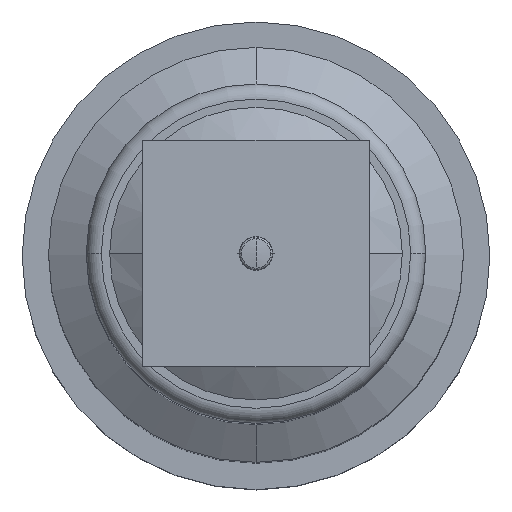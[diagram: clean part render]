
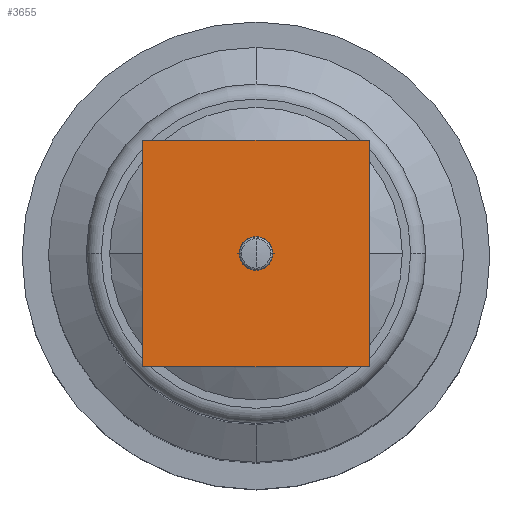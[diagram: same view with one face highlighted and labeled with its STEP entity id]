
A CAD part, top view. The second image highlights one B-rep face of the part: STEP entity #3655.
In plain terms, the highlighted planar face has unit normal (0, 0, 1).
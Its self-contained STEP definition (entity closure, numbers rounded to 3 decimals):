
#164 = ORIENTED_EDGE ( 'NONE', *, *, #7133, .T. ) ;
#713 = ORIENTED_EDGE ( 'NONE', *, *, #7649, .T. ) ;
#1603 = PLANE ( 'NONE',  #10544 ) ;
#1937 = ORIENTED_EDGE ( 'NONE', *, *, #4379, .T. ) ;
#2054 = CARTESIAN_POINT ( 'NONE',  ( -15., 15., 220. ) ) ;
#2060 = LINE ( 'NONE', #7481, #13785 ) ;
#2133 = DIRECTION ( 'NONE',  ( 0., 1., 0. ) ) ;
#2271 = VERTEX_POINT ( 'NONE', #3115 ) ;
#2326 = CARTESIAN_POINT ( 'NONE',  ( -15., 15., 220. ) ) ;
#2425 = CARTESIAN_POINT ( 'NONE',  ( -15., 15., 220. ) ) ;
#2739 = CARTESIAN_POINT ( 'NONE',  ( 0., 0., 220. ) ) ;
#3115 = CARTESIAN_POINT ( 'NONE',  ( -15., -15., 220. ) ) ;
#3655 = ADVANCED_FACE ( 'NONE', ( #11638 ), #1603, .T. ) ;
#3821 = EDGE_CURVE ( 'NONE', #9902, #2271, #8944, .T. ) ;
#4329 = ORIENTED_EDGE ( 'NONE', *, *, #3821, .T. ) ;
#4379 = EDGE_CURVE ( 'NONE', #7030, #9902, #14637, .T. ) ;
#5698 = CARTESIAN_POINT ( 'NONE',  ( 15., -15., 220. ) ) ;
#5796 = DIRECTION ( 'NONE',  ( 1., 0., 0. ) ) ;
#6236 = EDGE_LOOP ( 'NONE', ( #4329, #164, #713, #1937 ) ) ;
#6439 = VECTOR ( 'NONE', #12294, 1000. ) ;
#6822 = LINE ( 'NONE', #9169, #13444 ) ;
#7030 = VERTEX_POINT ( 'NONE', #9739 ) ;
#7133 = EDGE_CURVE ( 'NONE', #2271, #12289, #6822, .T. ) ;
#7240 = DIRECTION ( 'NONE',  ( 0., 0., 1. ) ) ;
#7481 = CARTESIAN_POINT ( 'NONE',  ( 15., 15., 220. ) ) ;
#7649 = EDGE_CURVE ( 'NONE', #12289, #7030, #2060, .T. ) ;
#8944 = LINE ( 'NONE', #2054, #6439 ) ;
#9169 = CARTESIAN_POINT ( 'NONE',  ( -15., -15., 220. ) ) ;
#9739 = CARTESIAN_POINT ( 'NONE',  ( 15., 15., 220. ) ) ;
#9902 = VERTEX_POINT ( 'NONE', #2425 ) ;
#10544 = AXIS2_PLACEMENT_3D ( 'NONE', #2739, #7240, #14173 ) ;
#11638 = FACE_OUTER_BOUND ( 'NONE', #6236, .T. ) ;
#12289 = VERTEX_POINT ( 'NONE', #5698 ) ;
#12294 = DIRECTION ( 'NONE',  ( 0., -1., 0. ) ) ;
#12529 = VECTOR ( 'NONE', #12613, 1000. ) ;
#12613 = DIRECTION ( 'NONE',  ( -1., 0., 0. ) ) ;
#13444 = VECTOR ( 'NONE', #5796, 1000. ) ;
#13785 = VECTOR ( 'NONE', #2133, 1000. ) ;
#14173 = DIRECTION ( 'NONE',  ( 1., 0., 0. ) ) ;
#14637 = LINE ( 'NONE', #2326, #12529 ) ;
